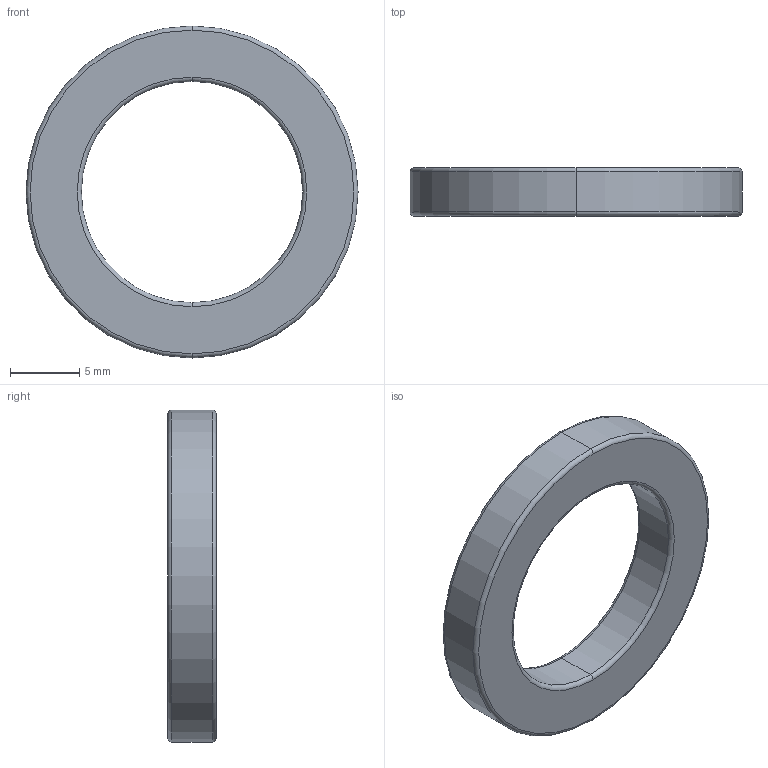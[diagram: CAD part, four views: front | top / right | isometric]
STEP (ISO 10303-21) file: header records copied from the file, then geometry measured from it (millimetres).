
FILE_DESCRIPTION (( 'STEP AP203' ), '1' );
FILE_NAME ('MAG023_Magnet_D24-d16-w3p5.STEP', '2017-08-10T07:53:28', ( '' ), ( '' ), 'SwSTEP 2.0', 'SolidWorks 2016', '' );
FILE_SCHEMA (( 'CONFIG_CONTROL_DESIGN' ));
Length unit declared in the file: millimetre
Products named in the file (1): MAG023_Magnet_D24-d16-w3p5
Bounding box: 24 x 3.5 x 24 mm (x, y, z)
Volume: 874.8 mm3; surface area: 910.1 mm2
Topology: 1 solids, 1 shells, 14 faces, 28 edges, 16 vertices
Faces by surface type: torus 8, cylinder 4, plane 2
Entity records: 453 total; most frequent: DIRECTION 82, CARTESIAN_POINT 59, ORIENTED_EDGE 56, AXIS2_PLACEMENT_3D 39, EDGE_CURVE 28, CIRCLE 24, VERTEX_POINT 16, EDGE_LOOP 16
